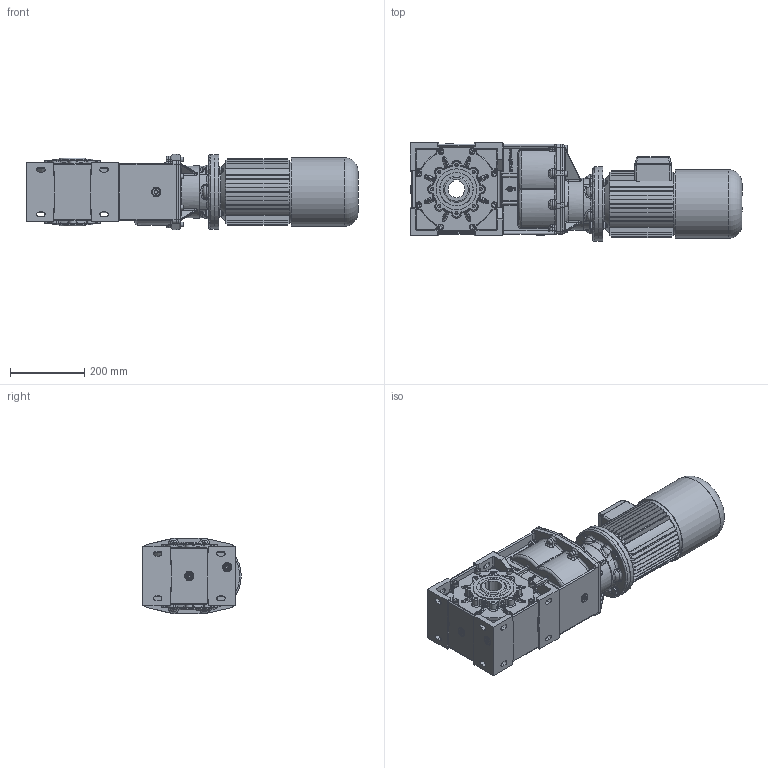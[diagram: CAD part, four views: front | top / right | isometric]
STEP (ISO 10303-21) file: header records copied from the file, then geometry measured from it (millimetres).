
FILE_DESCRIPTION((''),'2;1');
FILE_NAME('F:\Ghirri\3D\MO_RO40\Assiemi\MO40_3s-B5_90Lbrake.stp','2006-02-01T17:00:53',('Stefano'),(''),'Autodesk Inventor 10','Autodesk Inventor 10','');
FILE_SCHEMA(('AUTOMOTIVE_DESIGN { 1 0 10303 214 1 1 1 1 }'));
Length unit declared in the file: millimetre
Products named in the file (18): MO40_3s-B5_90Lbrake; Primario_MO40_3S; 3904001-A0; 3904002-A0; 3904003-A0; 3904009-A0; DIN 3760 AS AS - 70 x 90 x 10 - NBR; Guarnizione 3_8 GAS; Tappo 3_8 GAS_esagn_incsst; UNI 5931  M 10 x  25; UNI 8839 A 8; UNI 5931  M 8 x  30; motori B5 brake 90L; FM_MRV70_D=200; UNI 5738  M10 x 1.25 x 40; UNI 6593 11 x 21; UNI 5589  M10
Assembly tree (60 placements, depth 3):
  MO40_3s-B5_90Lbrake
    Primario_MO40_3S
      3904001-A0
      3904002-A0
      3904003-A0
      3904009-A0
      DIN 3760 AS AS - 70 x 90 x 10 - NBR  x2
      Guarnizione 3_8 GAS  x5
      Tappo 3_8 GAS_esagn_incsst  x5
      UNI 5931  M 10 x  25  x8
      UNI 8839 A 8  x8
      UNI 5931  M 8 x  30  x8
    motori B5 brake 90L
    FM_MRV70_D=200
      FM_MRV70_D=200
      UNI 5738  M10 x 1.25 x 40  x4
      UNI 6593 11 x 21  x8
      UNI 5589  M10  x4
Bounding box: 893 x 264.63 x 202 mm (x, y, z)
Volume: 19421532.9 mm3; surface area: 1702892.6 mm2
Topology: 59 solids, 60 shells, 3381 faces, 8382 edges, 5164 vertices
Faces by surface type: plane 1370, cylinder 964, bspline 838, cone 151, torus 54, sphere 4
Full cylindrical faces by diameter (mm): 5 x1, 8 x10, 8.5 x8, 10 x12, 10.5 x8, 11 x8, 11.5 x4, 13 x8, 14.95 x1, 16 x8, 16.2 x4, 16.3 x5, 16.5 x5, 20 x6, 21 x8, 22 x10, 24 x1, 25 x1, 27 x4, 70 x2, 76 x2, 85 x2, 90 x5, 100 x2, 110 x2, 130 x2, 140 x1, 162.8 x1, 181 x1, 185 x1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
Entity records: 148113 total; most frequent: CARTESIAN_POINT 82340, ORIENTED_EDGE 13850, DIRECTION 13031, EDGE_CURVE 6925, AXIS2_PLACEMENT_3D 4804, VERTEX_POINT 4377, VECTOR 3423, LINE 3423
